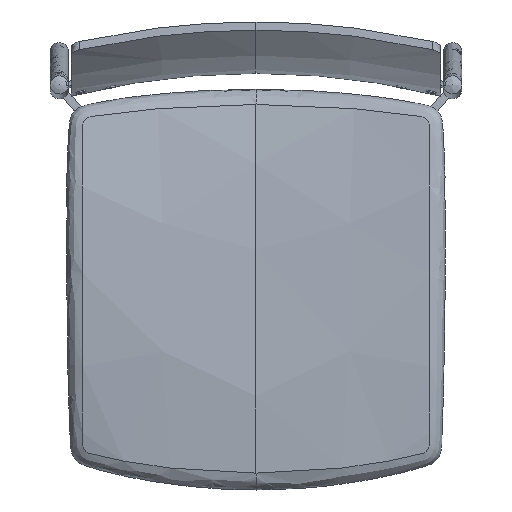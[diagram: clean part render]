
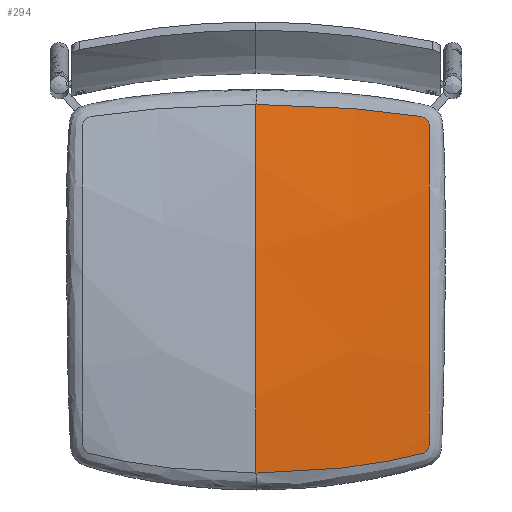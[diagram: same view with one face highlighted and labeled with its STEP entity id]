
A CAD part, top view. The second image highlights one B-rep face of the part: STEP entity #294.
In plain terms, the highlighted free-form (B-spline) face has degree [3, 3] with [6, 5] control points.
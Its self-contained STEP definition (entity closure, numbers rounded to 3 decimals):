
#14=B_SPLINE_SURFACE_WITH_KNOTS('',3,3,((#2604,#2605,#2606,#2607,#2608),
(#2609,#2610,#2611,#2612,#2613),(#2614,#2615,#2616,#2617,#2618),(#2619,
#2620,#2621,#2622,#2623),(#2624,#2625,#2626,#2627,#2628),(#2629,#2630,#2631,
#2632,#2633)),.UNSPECIFIED.,.F.,.F.,.F.,(4,1,1,4),(4,1,4),(0.,150.405,
300.811,451.216),(0.,113.023,226.045),
 .UNSPECIFIED.);
#294=ADVANCED_FACE('',(#388),#14,.T.);
#388=FACE_OUTER_BOUND('',#482,.T.);
#482=EDGE_LOOP('',(#713,#714));
#713=ORIENTED_EDGE('',*,*,#984,.F.);
#714=ORIENTED_EDGE('',*,*,#987,.F.);
#984=EDGE_CURVE('',#1270,#1269,#1143,.T.);
#987=EDGE_CURVE('',#1269,#1270,#1146,.T.);
#1143=B_SPLINE_CURVE_WITH_KNOTS('',3,(#3232,#3233,#3234,#3235,#3236,#3237),
 .UNSPECIFIED.,.F.,.F.,(4,1,1,4),(14.636,150.405,300.811,
436.736),.UNSPECIFIED.);
#1146=B_SPLINE_CURVE_WITH_KNOTS('',3,(#3308,#3309,#3310,#3311,#3312,#3313,
#3314,#3315,#3316,#3317,#3318,#3319,#3320,#3321,#3322,#3323,#3324,#3325,
#3326,#3327,#3328,#3329,#3330,#3331,#3332,#3333,#3334,#3335,#3336,#3337,
#3338,#3339,#3340,#3341,#3342,#3343,#3344,#3345,#3346,#3347,#3348,#3349,
#3350,#3351,#3352,#3353,#3354,#3355,#3356,#3357,#3358,#3359,#3360,#3361,
#3362,#3363,#3364,#3365,#3366,#3367,#3368,#3369,#3370,#3371,#3372,#3373),
 .UNSPECIFIED.,.F.,.F.,(4,2,2,2,1,1,1,2,2,2,2,2,1,1,1,2,2,2,2,2,2,2,2,2,
1,1,1,2,2,2,2,2,1,1,1,2,2,2,4),(-834.547,-732.977,-707.585,
-682.192,-634.077,-631.407,-628.738,
-626.069,-623.399,-620.73,-618.061,
-615.391,-612.722,-610.053,-607.384,
-561.831,-513.608,-489.497,-465.386,
-417.164,-368.942,-344.831,-320.72,
-272.498,-226.987,-224.275,-221.564,
-218.853,-216.141,-213.43,-210.718,
-208.007,-205.295,-202.584,-199.872,
-151.938,-126.615,-101.292,0.),.UNSPECIFIED.);
#1269=VERTEX_POINT('',#3224);
#1270=VERTEX_POINT('',#3225);
#2604=CARTESIAN_POINT('',(222.5,-257.5,447.92));
#2605=CARTESIAN_POINT('',(186.336,-267.419,456.436));
#2606=CARTESIAN_POINT('',(112.582,-282.432,461.217));
#2607=CARTESIAN_POINT('',(37.527,-287.459,461.479));
#2608=CARTESIAN_POINT('',(0.,-287.459,461.479));
#2609=CARTESIAN_POINT('',(222.5,-210.234,456.665));
#2610=CARTESIAN_POINT('',(186.401,-218.252,466.09));
#2611=CARTESIAN_POINT('',(112.677,-230.383,469.207));
#2612=CARTESIAN_POINT('',(37.559,-234.444,468.909));
#2613=CARTESIAN_POINT('',(0.,-234.444,468.909));
#2614=CARTESIAN_POINT('',(222.5,-115.677,460.522));
#2615=CARTESIAN_POINT('',(186.531,-119.935,467.649));
#2616=CARTESIAN_POINT('',(112.867,-126.362,463.263));
#2617=CARTESIAN_POINT('',(37.622,-128.511,461.788));
#2618=CARTESIAN_POINT('',(0.,-128.511,461.788));
#2619=CARTESIAN_POINT('',(222.5,26.117,455.406));
#2620=CARTESIAN_POINT('',(186.726,27.366,458.741));
#2621=CARTESIAN_POINT('',(113.151,29.293,448.584));
#2622=CARTESIAN_POINT('',(37.717,29.944,445.172));
#2623=CARTESIAN_POINT('',(0.,29.944,445.172));
#2624=CARTESIAN_POINT('',(222.5,120.418,444.736));
#2625=CARTESIAN_POINT('',(186.856,125.229,445.319));
#2626=CARTESIAN_POINT('',(113.341,132.56,434.981));
#2627=CARTESIAN_POINT('',(37.78,135.024,430.165));
#2628=CARTESIAN_POINT('',(0.,135.024,430.165));
#2629=CARTESIAN_POINT('',(222.5,167.5,432.588));
#2630=CARTESIAN_POINT('',(186.92,174.063,429.741));
#2631=CARTESIAN_POINT('',(113.436,184.054,417.229));
#2632=CARTESIAN_POINT('',(37.812,187.409,411.683));
#2633=CARTESIAN_POINT('',(0.,187.409,411.683));
#3224=CARTESIAN_POINT('',(0.,172.275,416.725));
#3225=CARTESIAN_POINT('',(0.,-271.984,463.345));
#3232=CARTESIAN_POINT('',(0.,-271.984,463.345));
#3233=CARTESIAN_POINT('',(0.,-224.136,468.206));
#3234=CARTESIAN_POINT('',(0.,-123.372,461.249));
#3235=CARTESIAN_POINT('',(0.,24.859,445.705));
#3236=CARTESIAN_POINT('',(0.,124.906,431.601));
#3237=CARTESIAN_POINT('',(0.,172.275,416.725));
#3308=CARTESIAN_POINT('',(0.,172.275,416.725));
#3309=CARTESIAN_POINT('',(33.428,172.274,416.725));
#3310=CARTESIAN_POINT('',(66.833,171.067,418.808));
#3311=CARTESIAN_POINT('',(108.273,168.045,423.155));
#3312=CARTESIAN_POINT('',(116.546,167.365,424.119));
#3313=CARTESIAN_POINT('',(133.064,165.851,426.169));
#3314=CARTESIAN_POINT('',(141.303,165.018,427.245));
#3315=CARTESIAN_POINT('',(165.179,162.377,430.343));
#3316=CARTESIAN_POINT('',(181.515,160.261,432.451));
#3317=CARTESIAN_POINT('',(199.038,157.674,434.137));
#3318=CARTESIAN_POINT('',(200.949,157.297,434.337));
#3319=CARTESIAN_POINT('',(202.303,156.803,434.534));
#3320=CARTESIAN_POINT('',(203.554,156.216,434.745));
#3321=CARTESIAN_POINT('',(204.158,155.865,434.863));
#3322=CARTESIAN_POINT('',(205.273,155.048,435.12));
#3323=CARTESIAN_POINT('',(205.785,154.581,435.26));
#3324=CARTESIAN_POINT('',(206.691,153.546,435.555));
#3325=CARTESIAN_POINT('',(207.084,152.978,435.71));
#3326=CARTESIAN_POINT('',(207.737,151.775,436.029));
#3327=CARTESIAN_POINT('',(207.999,151.137,436.193));
#3328=CARTESIAN_POINT('',(208.399,149.838,436.519));
#3329=CARTESIAN_POINT('',(208.689,148.451,436.857));
#3330=CARTESIAN_POINT('',(208.776,146.557,437.302));
#3331=CARTESIAN_POINT('',(208.742,129.822,441.126));
#3332=CARTESIAN_POINT('',(208.749,114.125,444.006));
#3333=CARTESIAN_POINT('',(208.73,83.211,448.722));
#3334=CARTESIAN_POINT('',(208.724,67.267,450.629));
#3335=CARTESIAN_POINT('',(208.712,43.289,453.027));
#3336=CARTESIAN_POINT('',(208.709,35.291,453.748));
#3337=CARTESIAN_POINT('',(208.701,19.285,455.088));
#3338=CARTESIAN_POINT('',(208.697,11.276,455.707));
#3339=CARTESIAN_POINT('',(208.686,-12.757,457.414));
#3340=CARTESIAN_POINT('',(208.678,-28.794,458.35));
#3341=CARTESIAN_POINT('',(208.663,-60.887,459.815));
#3342=CARTESIAN_POINT('',(208.656,-76.942,460.344));
#3343=CARTESIAN_POINT('',(208.644,-101.031,460.833));
#3344=CARTESIAN_POINT('',(208.641,-109.063,460.945));
#3345=CARTESIAN_POINT('',(208.633,-125.124,461.068));
#3346=CARTESIAN_POINT('',(208.629,-133.157,461.078));
#3347=CARTESIAN_POINT('',(208.618,-157.252,460.877));
#3348=CARTESIAN_POINT('',(208.609,-173.304,460.433));
#3349=CARTESIAN_POINT('',(208.599,-204.505,458.545));
#3350=CARTESIAN_POINT('',(208.578,-220.395,457.101));
#3351=CARTESIAN_POINT('',(208.596,-237.426,454.773));
#3352=CARTESIAN_POINT('',(208.506,-239.362,454.519));
#3353=CARTESIAN_POINT('',(208.218,-240.795,454.378));
#3354=CARTESIAN_POINT('',(207.826,-242.142,454.27));
#3355=CARTESIAN_POINT('',(207.57,-242.807,454.23));
#3356=CARTESIAN_POINT('',(206.935,-244.072,454.185));
#3357=CARTESIAN_POINT('',(206.555,-244.674,454.18));
#3358=CARTESIAN_POINT('',(205.68,-245.787,454.206));
#3359=CARTESIAN_POINT('',(205.185,-246.298,454.238));
#3360=CARTESIAN_POINT('',(204.107,-247.21,454.334));
#3361=CARTESIAN_POINT('',(203.522,-247.613,454.4));
#3362=CARTESIAN_POINT('',(202.306,-248.306,454.554));
#3363=CARTESIAN_POINT('',(200.982,-248.912,454.74));
#3364=CARTESIAN_POINT('',(199.118,-249.435,455.046));
#3365=CARTESIAN_POINT('',(181.911,-253.338,457.888));
#3366=CARTESIAN_POINT('',(165.65,-256.584,459.503));
#3367=CARTESIAN_POINT('',(141.78,-260.666,461.076));
#3368=CARTESIAN_POINT('',(133.518,-261.96,461.471));
#3369=CARTESIAN_POINT('',(116.939,-264.316,462.095));
#3370=CARTESIAN_POINT('',(108.632,-265.377,462.33));
#3371=CARTESIAN_POINT('',(67.022,-270.093,463.307));
#3372=CARTESIAN_POINT('',(33.509,-271.984,463.344));
#3373=CARTESIAN_POINT('',(0.,-271.984,463.345));
